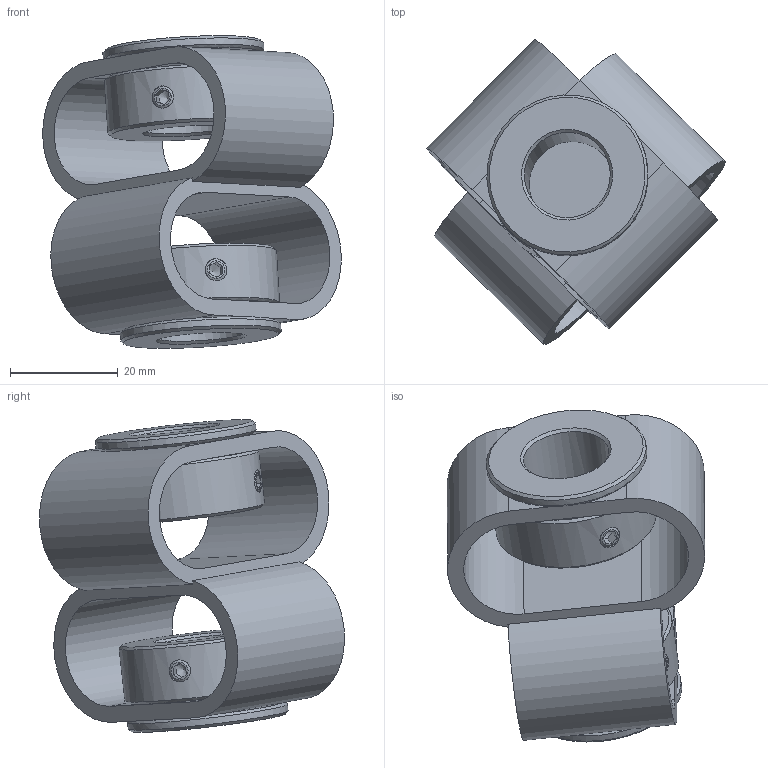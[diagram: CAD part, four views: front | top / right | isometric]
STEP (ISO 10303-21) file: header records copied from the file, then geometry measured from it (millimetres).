
FILE_DESCRIPTION(/* description */ (''),/* implementation_level */ '2;1');
FILE_NAME(/* name */ 'E:\ABP_bauteile\Doppelschlaufenkupplung\DKPS_5658\Doppelschlaufenkupplung_DKPS_5658_16_16.stp',/* time_stamp */ '2015-03-13T11:53:42+01:00',/* author */ ('Rob'),/* organization */ (''),/* preprocessor_version */ 'ST-DEVELOPER v15.6',/* originating_system */ 'Autodesk Inventor 2015',/* authorisation */ '');
FILE_SCHEMA (('CONFIG_CONTROL_DESIGN'));
Length unit declared in the file: millimetre
Products named in the file (1): Bauteil56
Bounding box: 55.53 x 56.74 x 58.16 mm (x, y, z)
Volume: 30184.1 mm3; surface area: 18083.3 mm2
Topology: 1 solids, 1 shells, 142 faces, 360 edges, 218 vertices
Faces by surface type: plane 84, cone 30, cylinder 28
Full cylindrical faces by diameter (mm): 4.134 x8, 16 x2, 21.5 x2, 23 x4, 30 x4
Entity records: 4088 total; most frequent: CARTESIAN_POINT 1027, DIRECTION 646, ORIENTED_EDGE 556, EDGE_CURVE 278, AXIS2_PLACEMENT_3D 257, EDGE_LOOP 210, VERTEX_POINT 182, FACE_OUTER_BOUND 142
